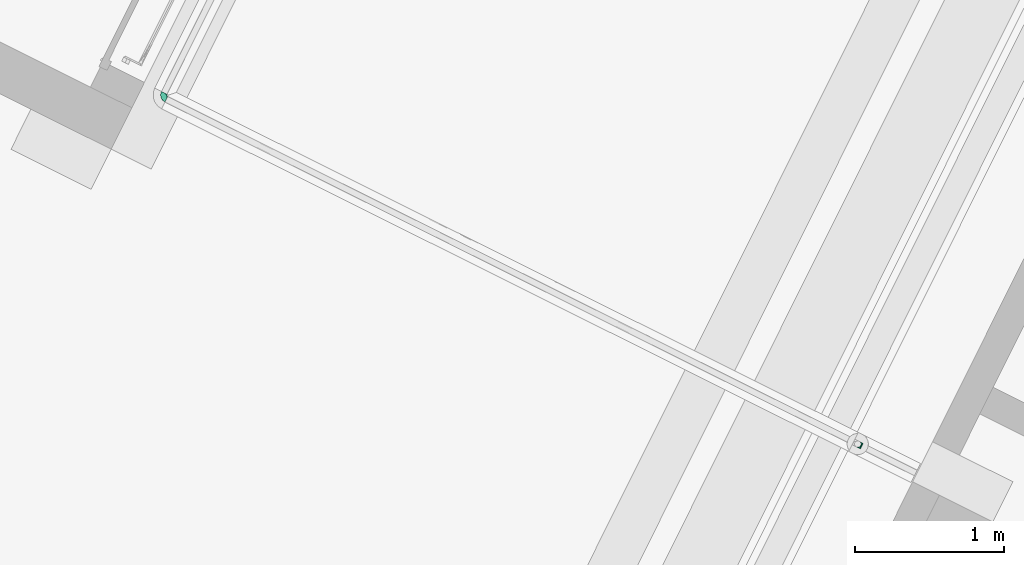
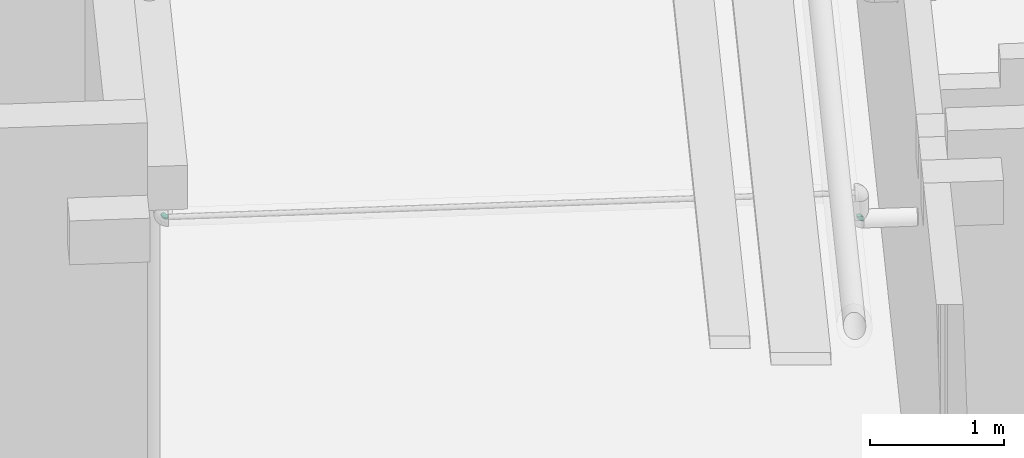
# One storey, part 84 of 91: 2 flow fittings.
"""IFC2X3 building model written with IfcOpenShell, lengths in metres."""

import ifcopenshell
import ifcopenshell.guid

model = None  # the IFC model being written
_history = None  # IfcOwnerHistory: only IFC2X3 demands one
_inside = {}  # id of a spatial element -> (the spatial element, [elements in it])
_under = {}  # id of a project, library or spatial element -> (it, [spatial elements below it])
_declared = {}  # id of a project -> (the project, [libraries it declares])
_typed = {}  # id of a type object -> (the type object, [elements of that type])
_made_of = {}  # id of a material, layer set ... -> (it, [elements and type objects made of it])


def new_model(schema):
    """Start an empty IFC model of exactly this schema.

    Asked for "IFC4X3", IfcOpenShell would pick the latest addendum, in which some entities
    have other attributes; the version numbers below select the first issue.
    IFC2X3 requires an IfcOwnerHistory on every rooted entity: one is made here for all.
    """
    global model, _history
    if schema == "IFC4X3":
        model = ifcopenshell.file(schema_version=(4, 3, 0, 0))
    else:
        model = ifcopenshell.file(schema=schema)
    _inside.clear()
    _under.clear()
    _declared.clear()
    _typed.clear()
    _made_of.clear()
    _history = None
    if model.schema == "IFC2X3":
        org = make("IfcOrganization", Name="unknown")
        user = make(
            "IfcPersonAndOrganization",
            ThePerson=make("IfcPerson", FamilyName="unknown"),
            TheOrganization=org,
        )
        app = make(
            "IfcApplication",
            ApplicationDeveloper=org,
            Version="unknown",
            ApplicationFullName="unknown",
            ApplicationIdentifier="unknown",
        )
        _history = make(
            "IfcOwnerHistory",
            OwningUser=user,
            OwningApplication=app,
            ChangeAction="ADDED",
            CreationDate=0,
        )
    return model


def make(cls, **values):
    """One entity of the class cls with the attributes given. An attribute that is None is left unset."""
    return model.create_entity(
        cls, **{name: value for name, value in values.items() if value is not None}
    )


def entity(cls, *values):
    """Any entity or typed value of the class cls, its attributes in the order of the schema. None: left unset."""
    e = model.create_entity(cls)
    for i, value in enumerate(values):
        if value is not None:
            e[i] = value
    return e


def rooted(cls, **values):
    """An entity with a GlobalId (a new one), such as an element, a storey or a relation."""
    return make(cls, GlobalId=ifcopenshell.guid.new(), OwnerHistory=_history, **values)


def si_unit(unit_type, name, prefix=None):
    """IfcSIUnit, for example si_unit("LENGTHUNIT", "METRE", prefix="MILLI")."""
    return make("IfcSIUnit", UnitType=unit_type, Prefix=prefix, Name=name)


def converted_unit(unit_type, name, factor, base, dimensions=None, offset=None):
    """IfcConversionBasedUnit, such as the inch: factor (a typed value) times the base unit."""
    return make(
        "IfcConversionBasedUnit"
        if offset is None
        else "IfcConversionBasedUnitWithOffset",
        ConversionOffset=offset,
        Dimensions=None
        if dimensions is None
        else entity("IfcDimensionalExponents", *dimensions),
        UnitType=unit_type,
        Name=name,
        ConversionFactor=make(
            "IfcMeasureWithUnit", ValueComponent=factor, UnitComponent=base
        ),
    )


def derived_unit(unit_type, elements):
    """IfcDerivedUnit: a product of units, each with its exponent."""
    return make(
        "IfcDerivedUnit",
        Elements=[
            make("IfcDerivedUnitElement", Unit=unit, Exponent=power)
            for unit, power in elements
        ],
        UnitType=unit_type,
    )


def assignment(units):
    """IfcUnitAssignment: the units of a project."""
    return None if units is None else make("IfcUnitAssignment", Units=units)


def point(xyz):
    """IfcCartesianPoint."""
    return None if xyz is None else make("IfcCartesianPoint", Coordinates=xyz)


def direction(xyz):
    """IfcDirection."""
    return None if xyz is None else make("IfcDirection", DirectionRatios=xyz)


def frame(location, z_axis=None, x_axis=None):
    """IfcAxis2Placement3D, a coordinate frame: its origin and axes. An axis left out is left unset."""
    return make(
        "IfcAxis2Placement3D",
        Location=point(location),
        Axis=direction(z_axis),
        RefDirection=direction(x_axis),
    )


def origin():
    """The frame at (0, 0, 0) with its axes left unset."""
    return frame((0.0, 0.0, 0.0))


def place(relative_to, where):
    """IfcLocalPlacement: puts the frame where relative to a parent placement (None: the world)."""
    return make(
        "IfcLocalPlacement", PlacementRelTo=relative_to, RelativePlacement=where
    )


def context(
    kind, dimensions, precision=None, world=None, true_north=None, identifier=None
):
    """IfcGeometricRepresentationContext, for example the 3D "Model" context."""
    return make(
        "IfcGeometricRepresentationContext",
        ContextIdentifier=identifier,
        ContextType=kind,
        CoordinateSpaceDimension=dimensions,
        Precision=precision,
        WorldCoordinateSystem=world,
        TrueNorth=true_north,
    )


def subcontext(parent, identifier, kind, view, scale=None):
    """IfcGeometricRepresentationSubContext, for example "Body" below "Model"."""
    return make(
        "IfcGeometricRepresentationSubContext",
        ContextIdentifier=identifier,
        ContextType=kind,
        ParentContext=parent,
        TargetScale=scale,
        TargetView=view,
    )


def project(units=None, contexts=None):
    """IfcProject with its units and contexts."""
    return rooted(
        "IfcProject",
        Name="project",
        RepresentationContexts=contexts,
        UnitsInContext=assignment(units),
    )


def spatial(cls, under=None, at=None, **own):
    """A site, building, storey or space (cls), placed at a placement, below another one or the project."""
    s = rooted(cls, ObjectPlacement=at, **own)
    if under is not None:
        _under.setdefault(under.id(), (under, []))[1].append(s)
    return s


def faces_of(points, faces, orient=None, outer=None):
    """IfcFace entities. A face is a list of loops; a loop is a list of indices into points, from 0.

    orient and outer hold one flag for each loop. By default every Orientation is true, the
    first loop of a face is its IfcFaceOuterBound and the others are IfcFaceBound.
    """
    made = []
    for i, loops in enumerate(faces):
        bounds = []
        for j, loop in enumerate(loops):
            is_outer = j == 0 if outer is None else outer[i][j]
            bounds.append(
                make(
                    "IfcFaceOuterBound" if is_outer else "IfcFaceBound",
                    Bound=make("IfcPolyLoop", Polygon=[points[k] for k in loop]),
                    Orientation=True if orient is None else orient[i][j],
                )
            )
        made.append(make("IfcFace", Bounds=bounds))
    return made


def faceted_brep(points, faces, orient=None, outer=None, voids=None):
    """IfcFacetedBrep: a solid bounded by flat faces; with voids (closed shells), ...WithVoids."""
    shared = [point(p) for p in points]
    hull = make("IfcClosedShell", CfsFaces=faces_of(shared, faces, orient, outer))
    if voids is None:
        return make("IfcFacetedBrep", Outer=hull)
    return make(
        "IfcFacetedBrepWithVoids",
        Outer=hull,
        Voids=[
            make(cls, CfsFaces=faces_of(shared, fs, o, b)) for cls, fs, o, b in voids
        ],
    )


def shape(context_of_items, identifier, shape_type, items):
    """IfcShapeRepresentation: the items that make up one representation, for example the "Body"."""
    return make(
        "IfcShapeRepresentation",
        ContextOfItems=context_of_items,
        RepresentationIdentifier=identifier,
        RepresentationType=shape_type,
        Items=items,
    )


def source(mapping_origin, context_of_items, identifier, shape_type, items):
    """IfcRepresentationMap: a shape defined once, which mapped items show again and again."""
    return make(
        "IfcRepresentationMap",
        MappingOrigin=mapping_origin,
        MappedRepresentation=shape(context_of_items, identifier, shape_type, items),
    )


def transform(
    local_origin,
    x_axis=None,
    y_axis=None,
    z_axis=None,
    scale=None,
    scale2=None,
    scale3=None,
    uniform=True,
):
    """IfcCartesianTransformationOperator3D, or its non-uniform kind. x_axis, y_axis, z_axis: its Axis1, 2, 3."""
    if uniform:
        return make(
            "IfcCartesianTransformationOperator3D",
            Axis1=direction(x_axis),
            Axis2=direction(y_axis),
            LocalOrigin=point(local_origin),
            Scale=scale,
            Axis3=direction(z_axis),
        )
    return make(
        "IfcCartesianTransformationOperator3DnonUniform",
        Axis1=direction(x_axis),
        Axis2=direction(y_axis),
        LocalOrigin=point(local_origin),
        Scale=scale,
        Axis3=direction(z_axis),
        Scale2=scale2,
        Scale3=scale3,
    )


def mapped(mapping_source, mapping_target):
    """IfcMappedItem: shows the shape of a source again, moved by a transform."""
    return make(
        "IfcMappedItem", MappingSource=mapping_source, MappingTarget=mapping_target
    )


def made_of(thing, what):
    """Note that an element or type object is made of a material, layer set ...; save() writes the relation."""
    if what is not None:
        _made_of.setdefault(what.id(), (what, []))[1].append(thing)
    return thing


def type_object(cls, material=None, **own):
    """A type object (cls), such as IfcWallType, which elements share."""
    return made_of(rooted(cls, **own), material)


def type_shapes(of_type, sources):
    """Give a type object the sources (RepresentationMaps) that its elements show as mapped items."""
    of_type.RepresentationMaps = sources


def element(
    cls,
    number,
    at=None,
    inside=None,
    cuts=None,
    type_object=None,
    material=None,
    context=None,
    identifier="Body",
    shape_type=None,
    held_by="IfcProductDefinitionShape",
    body=None,
    shapes=None,
    **own,
):
    """One element of the class cls, such as IfcWall. Its Tag is "e" and its number.

    at: its placement. inside: the storey or other place that contains it. cuts: it is an
    opening in that element (IfcRelVoidsElement). A single representation is given by context,
    identifier, shape_type and body (its items); several are given by shapes. held_by: the class
    of the entity that holds the representations. save() writes the other relations.
    """
    e = rooted(cls, Tag="e%d" % number, ObjectPlacement=at, **own)
    if body is not None:
        shapes = [shape(context, identifier, shape_type, body)]
    if shapes is not None:
        e.Representation = make(held_by, Representations=shapes)
    if inside is not None:
        _inside.setdefault(inside.id(), (inside, []))[1].append(e)
    if cuts is not None:
        rooted(
            "IfcRelVoidsElement", RelatingBuildingElement=cuts, RelatedOpeningElement=e
        )
    if type_object is not None:
        _typed.setdefault(type_object.id(), (type_object, []))[1].append(e)
    return made_of(e, material)


def aggregate(whole, parts):
    """IfcRelAggregates: a whole, such as a stair, and the parts it consists of."""
    return rooted("IfcRelAggregates", RelatingObject=whole, RelatedObjects=parts)


def save(model, path):
    """Write the relations noted so far, then the file.

    IfcRelAggregates (storeys below a building ...), IfcRelContainedInSpatialStructure (elements
    in a storey), IfcRelDefinesByType, IfcRelAssociatesMaterial and IfcRelDeclares: one each for
    every whole, place, type object, material and project.
    """
    for whole, parts in _under.values():
        aggregate(whole, parts)
    for where, things in _inside.values():
        rooted(
            "IfcRelContainedInSpatialStructure",
            RelatedElements=things,
            RelatingStructure=where,
        )
    for kind, things in _typed.values():
        rooted("IfcRelDefinesByType", RelatedObjects=things, RelatingType=kind)
    for what, things in _made_of.values():
        rooted("IfcRelAssociatesMaterial", RelatedObjects=things, RelatingMaterial=what)
    for by, libraries in _declared.values():
        rooted("IfcRelDeclares", RelatingContext=by, RelatedDefinitions=libraries)
    model.write(path)


model = new_model("IFC2X3")

# Units and contexts
model_context = context("Model", 3, precision=1e-05, world=origin(), true_north=direction((0.894925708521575, 0.446215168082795)))
context_of_model = context(None, 3, precision=1e-05, world=origin(), true_north=direction((0.894925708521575, 0.446215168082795)))
body_context = subcontext(model_context, "Body", "Model", "MODEL_VIEW")
ifc_project = project(units=[si_unit("LENGTHUNIT", "METRE"), si_unit("AREAUNIT", "SQUARE_METRE"), si_unit("VOLUMEUNIT", "CUBIC_METRE"), converted_unit("PLANEANGLEUNIT", "DEGREE", entity("IfcRatioMeasure", 0.0174532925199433), si_unit("PLANEANGLEUNIT", "RADIAN"), dimensions=[0, 0, 0, 0, 0, 0, 0]), si_unit("MASSUNIT", "GRAM", prefix="KILO"), si_unit("TIMEUNIT", "SECOND"), si_unit("FREQUENCYUNIT", "HERTZ"), si_unit("THERMODYNAMICTEMPERATUREUNIT", "DEGREE_CELSIUS"), derived_unit("THERMALTRANSMITTANCEUNIT", [(si_unit("MASSUNIT", "GRAM", prefix="KILO"), 1), (si_unit("THERMODYNAMICTEMPERATUREUNIT", "KELVIN"), -1), (si_unit("TIMEUNIT", "SECOND"), -3)]), derived_unit("VOLUMETRICFLOWRATEUNIT", [(si_unit("LENGTHUNIT", "METRE"), 3), (si_unit("TIMEUNIT", "SECOND"), -1)]), si_unit("ELECTRICCURRENTUNIT", "AMPERE"), si_unit("ELECTRICVOLTAGEUNIT", "VOLT"), si_unit("POWERUNIT", "WATT"), si_unit("FORCEUNIT", "NEWTON", prefix="KILO"), si_unit("ILLUMINANCEUNIT", "LUX"), si_unit("LUMINOUSFLUXUNIT", "LUMEN"), si_unit("LUMINOUSINTENSITYUNIT", "CANDELA"), si_unit("PRESSUREUNIT", "PASCAL")], contexts=[model_context, context_of_model])

# Site, building, storey
site_placement = place(None, frame((218.228324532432, 584.720189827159, 0.0), z_axis=(0.0, 0.0, 1.0), x_axis=(0.446215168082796, 0.894925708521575, 0.0)))
site = spatial("IfcSite", under=ifc_project, at=site_placement, Name="Default", CompositionType="ELEMENT")
building_placement = place(site_placement, origin())
building = spatial("IfcBuilding", under=site, at=building_placement, CompositionType="ELEMENT")
storey_placement = place(building_placement, origin())
storey = spatial("IfcBuildingStorey", under=building, at=storey_placement, Name="0 - Piano Terra", CompositionType="ELEMENT", Elevation=0.0)

# Flow fittings
pipe_fitting_type = type_object("IfcPipeFittingType", Name="Standard", PredefinedType="NOTDEFINED")
shared_shape = source(origin(), body_context, "Body", "Brep", [
    faceted_brep([(-0.0319999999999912, 0.0105499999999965, -0.0182731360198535), (-0.0319999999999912, 0.00546108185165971, -0.0203810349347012), (-0.0319999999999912, 0.0, -0.0211000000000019), (-0.0319999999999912, -0.00546108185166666, -0.0203810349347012), (-0.0319999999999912, -0.0105500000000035, -0.0182731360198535), (-0.0319999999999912, -0.0149199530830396, -0.0149199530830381), (-0.0319999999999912, -0.0182731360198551, -0.0105500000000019), (-0.0319999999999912, -0.0203810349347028, -0.00546108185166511), (-0.0319999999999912, -0.0211000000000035, 0.0), (-0.0319999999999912, -0.0203810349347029, 0.00546108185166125), (-0.0319999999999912, -0.0182731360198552, 0.0105499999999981), (-0.0319999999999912, -0.0149199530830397, 0.0149199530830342), (-0.0319999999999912, -0.0105500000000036, 0.0182731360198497), (-0.0319999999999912, -0.00546108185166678, 0.0203810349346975), (-0.0319999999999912, 0.0, 0.0210999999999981), (-0.0319999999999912, 0.00546108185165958, 0.0203810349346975), (-0.0319999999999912, 0.00800554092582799, 0.0193270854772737), (-0.0319999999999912, 0.0105499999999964, 0.0182731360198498), (-0.0319999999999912, 0.0149199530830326, 0.0149199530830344), (-0.0319999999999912, 0.0182731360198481, 0.0105499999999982), (-0.0319999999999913, 0.0203810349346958, 0.00546108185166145), (-0.0319999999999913, 0.0210999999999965, 0.0), (-0.0319999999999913, 0.0203810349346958, -0.00546108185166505), (-0.0319999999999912, 0.0182731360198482, -0.0105500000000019), (-0.0319999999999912, 0.0149199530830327, -0.014919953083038), (0.0, 0.0319999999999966, -0.0211000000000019), (-0.00546108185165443, 0.0319999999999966, -0.0203810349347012), (-0.0105499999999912, 0.0319999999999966, -0.0182731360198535), (-0.0149199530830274, 0.0319999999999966, -0.014919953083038), (-0.0182731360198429, 0.0319999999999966, -0.0105500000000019), (-0.0203810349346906, 0.0319999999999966, -0.00546108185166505), (-0.0210999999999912, 0.0319999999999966, 0.0), (-0.0203810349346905, 0.0319999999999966, 0.00546108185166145), (-0.0182731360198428, 0.0319999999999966, 0.0105499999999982), (-0.0149199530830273, 0.0319999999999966, 0.0149199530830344), (-0.0105499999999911, 0.0319999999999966, 0.0182731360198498), (-0.00800554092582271, 0.0319999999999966, 0.0193270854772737), (-0.0054610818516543, 0.0319999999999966, 0.0203810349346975), (0.0, 0.0319999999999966, 0.0210999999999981), (0.00546108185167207, 0.0319999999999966, 0.0203810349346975), (0.0105500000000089, 0.0319999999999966, 0.0182731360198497), (0.014919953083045, 0.0319999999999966, 0.0149199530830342), (0.0165965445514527, 0.0319999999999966, 0.0127349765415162), (0.0182731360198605, 0.0319999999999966, 0.0105499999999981), (0.0203810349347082, 0.0319999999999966, 0.00546108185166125), (0.0211000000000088, 0.0319999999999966, 0.0), (0.0203810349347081, 0.0319999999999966, -0.00546108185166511), (0.0182731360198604, 0.0319999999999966, -0.0105500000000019), (0.0149199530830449, 0.0319999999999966, -0.0149199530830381), (0.0105500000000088, 0.0319999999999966, -0.0182731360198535), (0.00546108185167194, 0.0319999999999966, -0.0203810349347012), (-0.00222604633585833, 0.023728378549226, 0.0210713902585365), (0.00334042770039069, 0.0236615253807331, 0.0206549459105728), (-0.00900645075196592, -0.00960577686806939, 0.014276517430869), (-0.0209292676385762, -0.0130218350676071, 0.0154568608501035), (-0.0145908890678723, -0.0153912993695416, 0.0101692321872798), (-0.0217190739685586, -0.0190549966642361, 0.0), (-0.0220282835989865, -0.0191631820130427, 0.00633714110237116), (0.0170981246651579, 0.0147219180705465, 0.00657454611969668), (0.0192914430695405, 0.0230467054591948, 0.00652112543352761), (0.0165175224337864, 0.0200572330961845, 0.0110652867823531), (-0.0238201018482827, -0.0169140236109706, 0.0116484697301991), (0.00422109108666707, 0.00733524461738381, 0.0174775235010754), (-0.00183936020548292, -0.00157306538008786, 0.0165161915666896), (0.00494762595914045, 0.000859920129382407, 0.0133740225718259), (-0.0231100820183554, -0.0085835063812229, 0.0188172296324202), (-0.0268497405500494, 0.00624646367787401, 0.0203052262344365), (-0.0237283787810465, 0.00222604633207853, 0.0210713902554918), (0.00636919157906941, -0.00389652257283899, 0.00481660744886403), (0.00885765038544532, 0.00100436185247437, 0.00856309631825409), (0.00317363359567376, -0.0049364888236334, 0.00916667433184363), (0.0190549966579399, 0.021719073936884, 0.0), (-0.0249753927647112, 0.0127272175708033, 0.0176991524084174), (-0.0219437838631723, 0.00803535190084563, 0.0202256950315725), (-0.0080353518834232, 0.0219437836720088, 0.0202256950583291), (-0.0127272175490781, 0.0249753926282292, 0.017699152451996), (-0.0135012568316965, 0.0177999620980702, 0.0192321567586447), (-0.0259094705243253, 0.0169310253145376, 0.0140445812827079), (-0.0243638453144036, -0.00336513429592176, 0.0206817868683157), (-0.0083182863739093, -0.00215621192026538, 0.0188085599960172), (-0.0155459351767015, -0.00207489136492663, 0.0202758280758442), (-0.014962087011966, -0.00661982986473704, 0.0184646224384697), (-0.024116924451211, 0.0234834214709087, 0.00540852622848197), (-0.0260761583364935, 0.02023403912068, 0.00952662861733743), (0.0131866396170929, 0.0228304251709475, 0.0156902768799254), (0.0177597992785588, 0.0259911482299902, 0.0108087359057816), (-0.0196183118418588, 0.0196183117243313, 0.0153381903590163), (0.00836704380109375, 0.0205044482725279, 0.0185948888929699), (-0.0054260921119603, 0.0157915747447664, 0.0210819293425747), (-0.0119915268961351, 0.0119915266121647, 0.0207723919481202), (-0.00791438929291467, 0.00583732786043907, 0.0207972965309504), (-0.000718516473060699, -0.00512241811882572, 0.0130949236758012), (-0.0157915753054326, 0.00542609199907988, 0.0210819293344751), (-0.0175404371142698, 0.0125520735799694, 0.0196189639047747), (-0.00624646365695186, 0.0268497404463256, 0.0203052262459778), (-0.0030660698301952, -0.011302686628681, 0.0), (0.000544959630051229, -0.00927179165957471, 0.00474379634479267), (-0.00924044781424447, -0.0152715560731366, 0.00513668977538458), (-0.0025011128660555, 0.00396354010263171, 0.0192243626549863), (0.0111873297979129, 0.0121560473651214, 0.0142858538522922), (0.0142348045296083, 0.013520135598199, 0.0113438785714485), (-0.021173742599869, 0.0270533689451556, 0.00642753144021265), (0.0170580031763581, 0.0116795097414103, 0.0), (-0.0209433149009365, 0.0244619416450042, 0.0099283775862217), (-0.0169310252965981, 0.0259094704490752, 0.0140445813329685), (0.00815725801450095, 0.0134412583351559, 0.0171881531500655), (0.00158972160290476, 0.0138945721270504, 0.0201812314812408), (-0.0242925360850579, 0.0242925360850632, 0.0), (-0.0156139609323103, -0.0173765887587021, 0.00665048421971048), (-0.0116795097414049, -0.0170580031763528, 0.0), (0.00554737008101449, -0.00554737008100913, 0.0), (0.0113026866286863, 0.00306606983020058, 0.0), (0.0108450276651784, 0.00147671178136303, 0.0045400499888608), (0.0112958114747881, 0.00704585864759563, 0.0110546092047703), (-0.0180945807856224, 0.016544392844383, 0.0178760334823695), (-0.00497912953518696, -0.0112747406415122, 0.00913935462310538), (-0.00893572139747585, -0.00624353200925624, 0.0168798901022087), (-0.0156916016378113, 0.021034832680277, 0.0171095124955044), (-0.00342686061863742, 0.0112043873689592, 0.0208340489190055), (0.0134913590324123, 0.00703921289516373, 0.00704441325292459), (0.00841568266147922, 0.00627762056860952, 0.0138629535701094), (0.0139147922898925, 0.0140606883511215, -0.0120870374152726), (0.0170731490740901, 0.0143997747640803, -0.00631163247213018), (0.0133973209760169, 0.00669108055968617, -0.00679612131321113), (-0.0167699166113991, 0.00347561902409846, -0.0210973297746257), (-0.0230301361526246, 0.00785302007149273, -0.0201559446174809), (-0.0147344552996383, 0.0101848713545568, -0.0206819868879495), (-0.0249600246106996, 0.0021654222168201, -0.0210570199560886), (-0.0269235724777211, 0.0219306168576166, -0.00396891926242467), (-0.0108637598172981, -0.00653031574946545, -0.0173920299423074), (-0.0194617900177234, -0.00823414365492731, -0.018502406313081), (-0.0125598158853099, -0.00220699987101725, -0.0197802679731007), (-0.0268338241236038, 0.0205122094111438, -0.00828818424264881), (-0.024883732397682, 0.0171837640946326, -0.0142474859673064), (-0.0228721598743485, -0.0192710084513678, -0.00648971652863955), (-0.0193464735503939, -0.0164084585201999, -0.0109522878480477), (-0.0143997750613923, -0.0170731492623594, -0.00631163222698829), (-0.0266001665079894, -0.0170138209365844, -0.0120648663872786), (-0.00785301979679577, 0.0230301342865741, -0.0201559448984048), (-0.0252598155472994, 0.0126864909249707, -0.0176618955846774), (-0.0230841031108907, -0.0033100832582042, -0.0206322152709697), (-0.020019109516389, 0.0119073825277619, -0.0192649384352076), (-0.0225715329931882, -0.0131689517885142, -0.0156588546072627), (0.0164084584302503, 0.0193464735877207, -0.0109522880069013), (0.0170138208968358, 0.0266001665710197, -0.0120648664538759), (0.019271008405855, 0.0228721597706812, -0.00648971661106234), (-0.0105318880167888, -0.0106441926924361, -0.0140486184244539), (-0.017183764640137, 0.0248837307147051, -0.014247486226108), (-0.0266864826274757, -0.0086126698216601, -0.0191036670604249), (0.0033100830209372, 0.0230841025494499, -0.0206322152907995), (-0.0222937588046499, 0.0222937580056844, -0.0105497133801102), (-0.020353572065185, 0.0203535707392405, -0.0142844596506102), (-0.0221527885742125, 0.0262370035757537, -0.00460941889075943), (-0.00807833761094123, 0.00807833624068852, -0.0210204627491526), (-0.0126864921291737, 0.0252598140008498, -0.0176618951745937), (-0.0021654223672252, 0.0249600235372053, -0.0210570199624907), (0.0131689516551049, 0.022571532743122, -0.0156588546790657), (-0.0202234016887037, 0.0270426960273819, -0.00870077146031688), (0.00220699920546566, 0.0125598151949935, -0.0197802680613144), (0.00404629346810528, 0.00564706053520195, -0.0168858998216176), (-0.00350668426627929, 0.00350668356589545, -0.0194008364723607), (0.00861266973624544, 0.0266864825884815, -0.019103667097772), (0.00823414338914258, 0.019461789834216, -0.0185024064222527), (0.00902992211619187, 0.00178506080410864, -0.00926949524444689), (0.00883192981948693, -0.00110649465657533, -0.00471271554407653), (-0.00347562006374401, 0.0167699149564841, -0.0210973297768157), (0.0120396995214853, 0.00786660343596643, -0.010643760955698), (-0.00165984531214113, -0.00597168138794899, -0.0130195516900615), (-0.00858690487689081, -0.0124343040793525, -0.0106324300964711), (0.0106441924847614, 0.0105318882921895, -0.0140486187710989), (0.00627836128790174, 0.0123278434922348, -0.0179828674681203), (-0.0164380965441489, 0.0206141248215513, -0.0168366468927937), (-0.0160857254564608, 0.0160857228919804, -0.0188434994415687), (-0.0206141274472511, 0.0164380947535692, -0.0168366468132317), (-0.0106154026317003, 0.0161949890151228, -0.0203950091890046), (-0.00669108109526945, -0.0133973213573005, -0.00679612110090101), (0.00175955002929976, -0.00801862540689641, -0.00555203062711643), (-0.00301871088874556, -0.00338565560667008, -0.0160140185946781), (0.0034281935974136, -0.00342819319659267, -0.0108392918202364), (-0.00243028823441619, -0.00914614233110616, -0.00983204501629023), (-0.00670255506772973, -0.00186855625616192, -0.0184300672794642), (0.00640730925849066, 0.00275638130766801, -0.0134309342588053)], [[[0, 1, 2, 3, 4, 5, 6, 7, 8, 9, 10, 11, 12, 13, 14, 15, 16, 17, 18, 19, 20, 21, 22, 23, 24]], [[25, 26, 27, 28, 29, 30, 31, 32, 33, 34, 35, 36, 37, 38, 39, 40, 41, 42, 43, 44, 45, 46, 47, 48, 49, 50]], [[38, 51, 52]], [[53, 54, 55]], [[9, 56, 57]], [[58, 59, 60]], [[61, 11, 10]], [[9, 8, 56]], [[62, 63, 64]], [[54, 11, 61]], [[54, 65, 12]], [[17, 16, 15, 66]], [[15, 14, 67]], [[68, 69, 70]], [[45, 44, 71]], [[72, 66, 73]], [[74, 75, 76]], [[77, 19, 18]], [[78, 14, 13]], [[66, 72, 17]], [[79, 80, 81]], [[82, 20, 83]], [[84, 85, 41]], [[21, 20, 82]], [[83, 77, 86]], [[87, 84, 40]], [[72, 18, 17]], [[88, 89, 90]], [[70, 64, 91]], [[73, 92, 93]], [[39, 38, 52]], [[73, 67, 92]], [[84, 41, 40]], [[40, 39, 87]], [[36, 35, 94, 37]], [[59, 44, 43]], [[95, 96, 97]], [[35, 34, 75]], [[63, 62, 98]], [[85, 59, 43]], [[64, 70, 69]], [[74, 88, 51]], [[99, 100, 84]], [[101, 33, 32]], [[59, 102, 71]], [[103, 86, 104]], [[105, 106, 62]], [[82, 101, 107]], [[9, 57, 10]], [[94, 35, 75]], [[77, 83, 19]], [[97, 108, 109]], [[34, 33, 104]], [[51, 38, 37]], [[107, 101, 31]], [[12, 65, 13]], [[54, 12, 11]], [[110, 111, 112]], [[100, 99, 113]], [[109, 57, 56]], [[57, 108, 61]], [[104, 75, 34]], [[74, 76, 89]], [[88, 74, 89]], [[106, 87, 52]], [[78, 67, 14]], [[80, 90, 92]], [[93, 89, 76]], [[72, 114, 77]], [[70, 91, 115]], [[63, 79, 116]], [[115, 53, 55]], [[70, 96, 68]], [[58, 60, 100]], [[71, 44, 59]], [[84, 87, 105]], [[85, 43, 42, 41]], [[81, 54, 53]], [[65, 81, 78]], [[106, 52, 51]], [[87, 39, 52]], [[103, 104, 33]], [[104, 86, 117]], [[72, 77, 18]], [[83, 86, 103]], [[82, 83, 103]], [[20, 19, 83]], [[57, 61, 10]], [[54, 61, 55]], [[101, 82, 103]], [[82, 107, 21]], [[65, 78, 13]], [[67, 78, 80]], [[86, 114, 117]], [[114, 72, 93]], [[92, 89, 93]], [[106, 51, 88]], [[98, 79, 63]], [[118, 88, 90]], [[80, 92, 67]], [[90, 89, 92]], [[119, 102, 58]], [[102, 59, 58]], [[114, 93, 76]], [[72, 73, 93]], [[55, 97, 115]], [[96, 70, 115]], [[108, 97, 55]], [[96, 110, 68]], [[95, 97, 109]], [[97, 96, 115]], [[110, 96, 95]], [[112, 119, 69]], [[68, 112, 69]], [[119, 113, 69]], [[102, 119, 111]], [[64, 63, 91]], [[113, 64, 69]], [[118, 98, 106]], [[113, 120, 64]], [[62, 120, 105]], [[119, 58, 100]], [[113, 99, 120]], [[100, 113, 119]], [[84, 100, 60]], [[110, 112, 68]], [[111, 119, 112]], [[117, 76, 75]], [[114, 86, 77]], [[76, 117, 114]], [[104, 117, 75]], [[106, 98, 62]], [[79, 90, 80]], [[90, 79, 98]], [[78, 81, 80]], [[54, 81, 65]], [[116, 79, 81]], [[105, 120, 99]], [[62, 64, 120]], [[116, 91, 63]], [[115, 91, 53]], [[81, 53, 116]], [[116, 53, 91]], [[94, 75, 74]], [[74, 51, 94]], [[51, 37, 94]], [[73, 66, 67]], [[15, 67, 66]], [[85, 84, 60]], [[59, 85, 60]], [[33, 101, 103]], [[31, 101, 32]], [[98, 118, 90]], [[106, 88, 118]], [[61, 108, 55]], [[109, 108, 57]], [[84, 105, 99]], [[106, 105, 87]], [[121, 122, 123]], [[124, 125, 126]], [[124, 127, 125]], [[127, 2, 1]], [[21, 128, 22]], [[129, 130, 131]], [[132, 133, 23]], [[134, 135, 136]], [[24, 23, 133]], [[5, 137, 6]], [[26, 138, 27]], [[0, 24, 139]], [[109, 56, 134]], [[140, 3, 2]], [[134, 7, 6]], [[125, 141, 126]], [[142, 5, 4]], [[143, 144, 145]], [[135, 142, 146]], [[29, 28, 147]], [[137, 134, 6]], [[4, 148, 142]], [[148, 140, 130]], [[148, 4, 3]], [[50, 149, 25]], [[130, 140, 131]], [[21, 107, 128]], [[150, 151, 133]], [[31, 30, 152]], [[46, 45, 71]], [[126, 153, 124]], [[132, 22, 128]], [[154, 147, 28]], [[26, 155, 138]], [[26, 25, 155]], [[48, 156, 49]], [[144, 48, 47]], [[150, 157, 147]], [[158, 159, 160]], [[161, 149, 50]], [[161, 156, 162]], [[125, 1, 0]], [[163, 123, 164]], [[165, 149, 158]], [[157, 150, 152]], [[161, 50, 49]], [[139, 24, 133]], [[145, 122, 143]], [[121, 123, 166]], [[56, 8, 7]], [[146, 167, 168]], [[169, 162, 156]], [[159, 158, 170]], [[47, 46, 145]], [[171, 172, 173]], [[150, 132, 152]], [[28, 27, 154]], [[165, 153, 174]], [[151, 150, 147]], [[139, 141, 125]], [[123, 102, 111]], [[95, 175, 176]], [[164, 123, 111]], [[159, 177, 160]], [[178, 176, 179]], [[178, 164, 176]], [[144, 156, 48]], [[156, 143, 121]], [[158, 149, 162]], [[155, 149, 165]], [[170, 169, 159]], [[158, 160, 153]], [[146, 142, 130]], [[137, 142, 135]], [[127, 140, 2]], [[124, 153, 131]], [[124, 131, 140]], [[180, 129, 131]], [[168, 136, 135]], [[56, 7, 134]], [[46, 71, 145]], [[102, 145, 71]], [[27, 138, 154]], [[154, 138, 174]], [[173, 133, 151]], [[125, 0, 139]], [[169, 166, 181]], [[178, 179, 167]], [[177, 159, 181]], [[146, 130, 129]], [[125, 127, 1]], [[140, 127, 124]], [[149, 155, 25]], [[138, 155, 165]], [[174, 126, 172]], [[126, 174, 153]], [[158, 153, 165]], [[131, 153, 160]], [[175, 109, 136]], [[109, 134, 136]], [[145, 102, 122]], [[102, 123, 122]], [[152, 128, 107]], [[128, 152, 132]], [[31, 152, 107]], [[152, 30, 157]], [[133, 132, 150]], [[23, 22, 132]], [[30, 29, 157]], [[147, 157, 29]], [[154, 174, 172]], [[165, 174, 138]], [[176, 164, 110]], [[164, 111, 110]], [[163, 164, 178]], [[95, 109, 175]], [[176, 175, 179]], [[176, 110, 95]], [[181, 163, 178]], [[166, 123, 163]], [[181, 178, 167]], [[169, 181, 159]], [[181, 166, 163]], [[121, 166, 169]], [[156, 121, 169]], [[122, 121, 143]], [[168, 179, 175]], [[167, 146, 177]], [[136, 168, 175]], [[135, 146, 168]], [[167, 179, 168]], [[181, 167, 177]], [[180, 131, 160]], [[146, 129, 177]], [[160, 177, 180]], [[177, 129, 180]], [[156, 161, 49]], [[149, 161, 162]], [[145, 144, 47]], [[156, 144, 143]], [[140, 148, 3]], [[142, 148, 130]], [[142, 137, 5]], [[134, 137, 135]], [[171, 151, 147]], [[151, 171, 173]], [[147, 154, 171]], [[154, 172, 171]], [[141, 173, 172]], [[139, 133, 173]], [[173, 141, 139]], [[126, 141, 172]], [[158, 162, 170]], [[169, 170, 162]]]),
])
type_shapes(pipe_fitting_type, [shared_shape])
for number, where, z_axis, x_axis, name in (
    (1, (-4.52187198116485, -4.55887665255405, 3.26249945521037), (1.0, 0.0, 0.0), (0.0, 1.0, 0.0), "M_Gomito - Saldato - Generico:Standard"),
    (2, (-4.52187198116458, 0.648921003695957, 3.499999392), (0.0, 1.97532367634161e-06, 1.0), (-1.0, 0.0, 0.0), "M_Gomito - Saldato - Generico:Standard"),
):
    element("IfcFlowFitting", number, at=place(storey_placement, frame(where, z_axis=z_axis, x_axis=x_axis)), inside=storey, type_object=pipe_fitting_type, Name=name, ObjectType="Standard", context=body_context, shape_type="MappedRepresentation", body=[
        mapped(shared_shape, transform((0.0, 0.0, 0.0), scale=1.0)),
    ])

save(model, "model.ifc")
